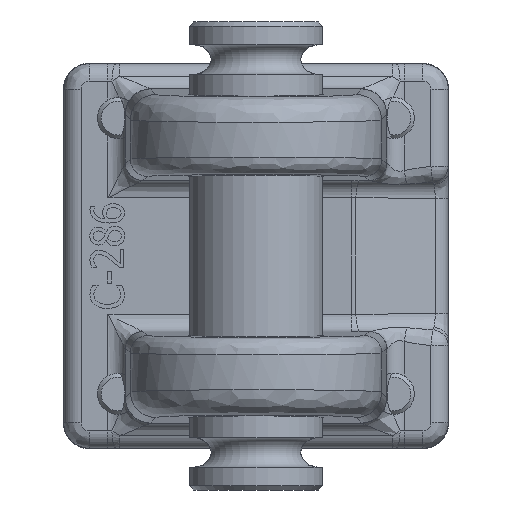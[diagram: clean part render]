
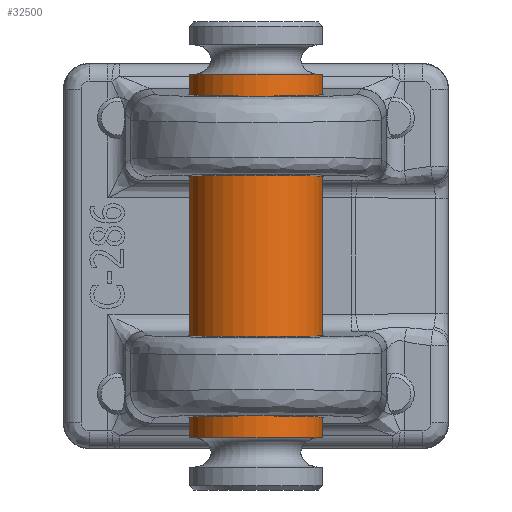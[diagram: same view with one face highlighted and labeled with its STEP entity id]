
A CAD part, left-side view. The second image highlights one B-rep face of the part: STEP entity #32500.
In plain terms, the highlighted cylindrical face has radius 12.7 mm (diameter 25.4 mm), a full revolution.
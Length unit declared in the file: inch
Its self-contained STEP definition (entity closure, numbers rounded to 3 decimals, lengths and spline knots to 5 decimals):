
#32396=CARTESIAN_POINT('',(-1.36,0.5,0.0));
#32397=VERTEX_POINT('',#32396);
#32398=CARTESIAN_POINT('',(-1.36,0.0,0.0));
#32399=DIRECTION('',(1.0,0.0,0.0));
#32400=DIRECTION('',(0.0,-1.0,0.0));
#32401=AXIS2_PLACEMENT_3D('',#32398,#32399,#32400);
#32402=CIRCLE('',#32401,0.5);
#32403=EDGE_CURVE('',#32397,#32397,#32402,.T.);
#32428=CARTESIAN_POINT('',(1.36,0.5,0.0));
#32429=VERTEX_POINT('',#32428);
#32430=CARTESIAN_POINT('',(1.36,0.0,0.0));
#32431=DIRECTION('',(-1.0,0.0,0.0));
#32432=DIRECTION('',(0.0,-1.0,0.0));
#32433=AXIS2_PLACEMENT_3D('',#32430,#32431,#32432);
#32434=CIRCLE('',#32433,0.5);
#32435=EDGE_CURVE('',#32429,#32429,#32434,.T.);
#32489=CARTESIAN_POINT('',(0.0,0.0,0.0));
#32490=DIRECTION('',(1.0,0.0,0.0));
#32491=DIRECTION('',(0.0,-1.0,0.0));
#32492=AXIS2_PLACEMENT_3D('',#32489,#32490,#32491);
#32493=CYLINDRICAL_SURFACE('',#32492,0.5);
#32494=ORIENTED_EDGE('',*,*,#32403,.T.);
#32495=EDGE_LOOP('',(#32494));
#32496=FACE_OUTER_BOUND('',#32495,.T.);
#32497=ORIENTED_EDGE('',*,*,#32435,.T.);
#32498=EDGE_LOOP('',(#32497));
#32499=FACE_BOUND('',#32498,.T.);
#32500=ADVANCED_FACE('',(#32496,#32499),#32493,.T.);
